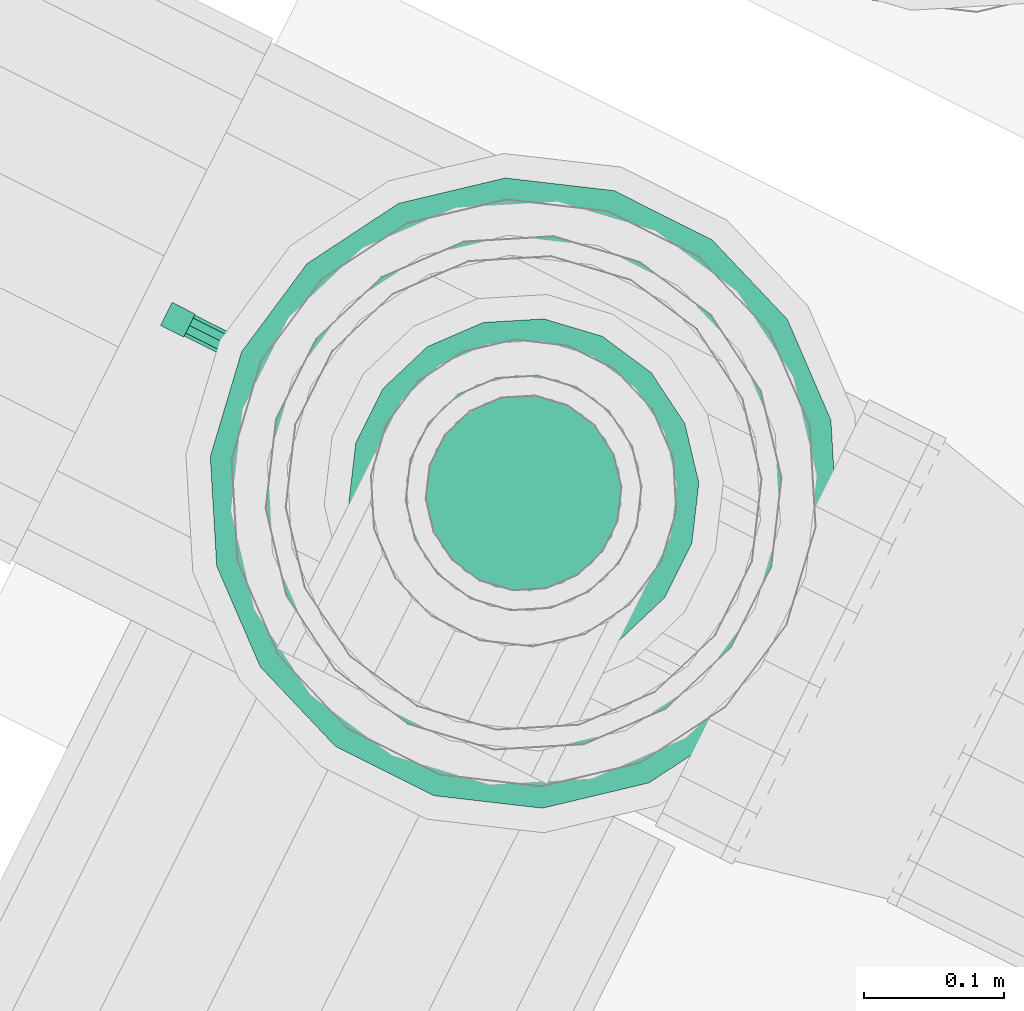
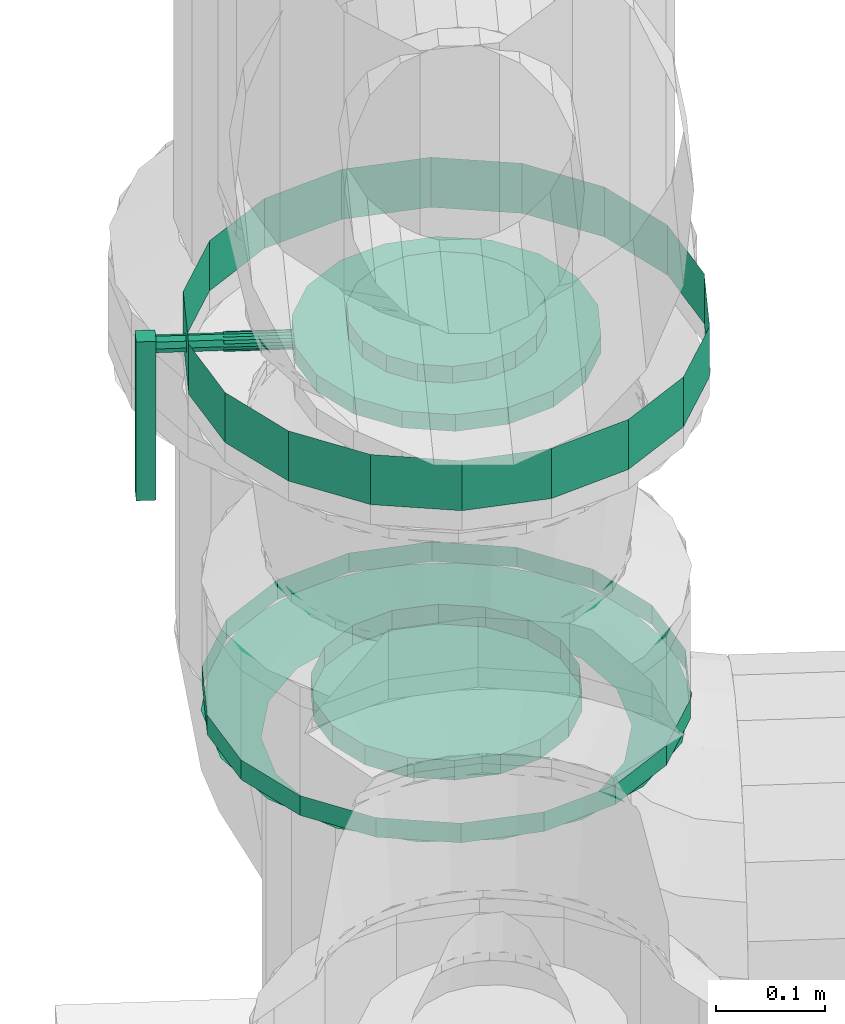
# One storey, part 117 of 152: 1 flow controller, 1 flow fitting.
"""IFC2X3 building model written with IfcOpenShell, lengths in metres."""

from ifc_helpers import new_model, si_unit, derived_unit, direction, frame, origin, place, context, subcontext, project, spatial, face_set, surface_model, source, transform, mapped, material, type_object, type_shapes, element, save


model = new_model("IFC2X3")

# Units and contexts
model_context = context("Model", 3, precision=5.2338327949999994e-05, world=origin(), true_north=direction((0.0, 1.0)))
body_context = subcontext(model_context, "Body", "Model", "MODEL_VIEW")
ifc_project = project(units=[si_unit("LENGTHUNIT", "METRE"), si_unit("AREAUNIT", "SQUARE_METRE"), si_unit("VOLUMEUNIT", "CUBIC_METRE"), si_unit("MASSUNIT", "GRAM", prefix="KILO"), si_unit("PLANEANGLEUNIT", "RADIAN"), derived_unit("THERMALTRANSMITTANCEUNIT", [(si_unit("MASSUNIT", "GRAM", prefix="KILO"), 1), (si_unit("THERMODYNAMICTEMPERATUREUNIT", "KELVIN"), -1), (si_unit("TIMEUNIT", "SECOND"), -3)])], contexts=[model_context])

# Site, building, storey
site_placement = place(None, frame((0.0, 0.0, 0.0), z_axis=(0.0, 0.0, 1.0), x_axis=(0.8939966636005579, -0.4480736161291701, 0.0)))
site = spatial("IfcSite", under=ifc_project, at=site_placement, Name="Default", CompositionType="ELEMENT")
building_placement = place(site_placement, origin())
building = spatial("IfcBuilding", under=site, at=building_placement, CompositionType="ELEMENT")
storey_placement = place(building_placement, frame((0.0, 0.0, 2.7499999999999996)))
storey = spatial("IfcBuildingStorey", under=building, at=storey_placement, Name="1. Obergeschoss", CompositionType="ELEMENT", Elevation=2.7499999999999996)

# Flow fitting
ifc_material = material(Name="IfcSurfaceStyle #9317")
distribution_element_type_1 = type_object("IfcDistributionElementType", Name="Flansch 233463:Flansch 233463", material=ifc_material)
shared_shape_1 = source(origin(), body_context, "Body", "SurfaceModel", [
    surface_model("IfcFaceBasedSurfaceModel", [(9.5559208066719, 7.3272083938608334, 4.120071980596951), (9.560133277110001, 7.303318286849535, 4.12007198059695), (9.552474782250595, 7.3005308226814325, 4.15307198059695), (9.547770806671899, 7.3272083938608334, 4.15307198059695), (9.57226260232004, 7.282309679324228, 4.12007198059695), (9.566019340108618, 7.2770709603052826, 4.15307198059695), (9.590845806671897, 7.26671651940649, 4.12007198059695), (9.5867708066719, 7.2596584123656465, 4.15307198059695), (9.613641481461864, 7.2584195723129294, 4.12007198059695), (9.61222624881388, 7.250393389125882, 4.15307198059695), (9.637900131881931, 7.2584195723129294, 4.12007198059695), (9.63931536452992, 7.250393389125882, 4.15307198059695), (9.660695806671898, 7.26671651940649, 4.120071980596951), (9.664770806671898, 7.2596584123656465, 4.15307198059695), (9.67927901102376, 7.282309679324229, 4.120071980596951), (9.685522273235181, 7.277070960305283, 4.15307198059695), (9.691408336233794, 7.303318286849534, 4.120071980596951), (9.6990668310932, 7.3005308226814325, 4.15307198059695), (9.695620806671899, 7.3272083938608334, 4.120071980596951), (9.703770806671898, 7.327208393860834, 4.15307198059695), (9.691408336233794, 7.351098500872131, 4.120071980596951), (9.6990668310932, 7.353885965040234, 4.15307198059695), (9.67927901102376, 7.372107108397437, 4.120071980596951), (9.685522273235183, 7.3773458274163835, 4.15307198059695), (9.660695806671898, 7.387700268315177, 4.12007198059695), (9.664770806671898, 7.39475837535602, 4.15307198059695), (9.637900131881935, 7.395997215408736, 4.12007198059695), (9.639315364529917, 7.404023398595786, 4.15307198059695), (9.613641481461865, 7.395997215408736, 4.12007198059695), (9.61222624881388, 7.404023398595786, 4.15307198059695), (9.590845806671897, 7.387700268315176, 4.12007198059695), (9.5867708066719, 7.39475837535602, 4.15307198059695), (9.572262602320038, 7.372107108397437, 4.120071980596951), (9.566019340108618, 7.3773458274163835, 4.15307198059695), (9.560133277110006, 7.351098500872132, 4.12007198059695), (9.552474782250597, 7.353885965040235, 4.15307198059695), (9.6257708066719, 7.452208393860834, 4.15307198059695), (9.58301828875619, 7.4446699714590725, 4.15307198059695), (9.583018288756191, 7.444669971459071, 4.175071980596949), (9.6257708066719, 7.452208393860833, 4.175071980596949), (9.545422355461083, 7.422963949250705, 4.15307198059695), (9.545422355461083, 7.422963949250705, 4.175071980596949), (9.517517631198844, 7.3897083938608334, 4.15307198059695), (9.517517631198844, 7.389708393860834, 4.175071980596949), (9.502669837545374, 7.3489144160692, 4.15307198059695), (9.502669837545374, 7.3489144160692, 4.175071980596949), (9.502669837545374, 7.305502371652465, 4.15307198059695), (9.502669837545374, 7.305502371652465, 4.175071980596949), (9.517517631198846, 7.264708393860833, 4.15307198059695), (9.517517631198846, 7.2647083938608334, 4.175071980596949), (9.545422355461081, 7.231452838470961, 4.15307198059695), (9.545422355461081, 7.231452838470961, 4.175071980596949), (9.583018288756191, 7.209746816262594, 4.15307198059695), (9.583018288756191, 7.209746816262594, 4.175071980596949), (9.625770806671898, 7.202208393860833, 4.15307198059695), (9.625770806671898, 7.202208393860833, 4.175071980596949), (9.66852332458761, 7.209746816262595, 4.15307198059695), (9.66852332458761, 7.209746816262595, 4.175071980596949), (9.706119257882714, 7.23145283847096, 4.15307198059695), (9.706119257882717, 7.231452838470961, 4.175071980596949), (9.734023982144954, 7.264708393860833, 4.15307198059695), (9.734023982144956, 7.264708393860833, 4.175071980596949), (9.748871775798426, 7.305502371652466, 4.15307198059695), (9.748871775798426, 7.305502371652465, 4.175071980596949), (9.748871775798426, 7.348914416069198, 4.15307198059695), (9.748871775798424, 7.348914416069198, 4.175071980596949), (9.734023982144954, 7.3897083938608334, 4.15307198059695), (9.734023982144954, 7.3897083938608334, 4.175071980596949), (9.706119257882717, 7.422963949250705, 4.15307198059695), (9.706119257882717, 7.422963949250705, 4.175071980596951), (9.66852332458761, 7.444669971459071, 4.15307198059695), (9.66852332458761, 7.444669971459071, 4.175071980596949), (9.6257708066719, 7.3272083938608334, 4.15307198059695), (9.455920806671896, 7.3272083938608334, 4.120071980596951), (9.466164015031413, 7.2691162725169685, 4.120071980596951), (9.414339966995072, 7.250253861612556, 4.15307198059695), (9.4007708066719, 7.3272083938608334, 4.153071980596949), (9.495658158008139, 7.2180309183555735, 4.120071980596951), (9.45341080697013, 7.182581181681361, 4.15307198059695), (9.5408458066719, 7.180113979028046, 4.12007198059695), (9.513270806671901, 7.132352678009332, 4.15307198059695), (9.596276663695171, 7.15993879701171, 4.12007198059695), (9.586699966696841, 7.105626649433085, 4.15307198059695), (9.655264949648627, 7.159938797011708, 4.12007198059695), (9.664841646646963, 7.105626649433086, 4.15307198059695), (9.7106958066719, 7.180113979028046, 4.120071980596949), (9.738270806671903, 7.132352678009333, 4.153071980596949), (9.755883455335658, 7.218030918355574, 4.120071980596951), (9.79813080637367, 7.1825811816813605, 4.15307198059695), (9.785377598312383, 7.269116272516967, 4.12007198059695), (9.837201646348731, 7.250253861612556, 4.15307198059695), (9.7956208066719, 7.3272083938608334, 4.12007198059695), (9.850770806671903, 7.3272083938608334, 4.153071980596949), (9.785377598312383, 7.385300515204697, 4.12007198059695), (9.837201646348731, 7.404162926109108, 4.15307198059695), (9.755883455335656, 7.436385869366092, 4.12007198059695), (9.79813080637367, 7.471835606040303, 4.153071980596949), (9.710695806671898, 7.474302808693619, 4.12007198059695), (9.7382708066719, 7.522064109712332, 4.15307198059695), (9.655264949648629, 7.494477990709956, 4.12007198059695), (9.66484164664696, 7.548790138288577, 4.15307198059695), (9.596276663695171, 7.494477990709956, 4.12007198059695), (9.586699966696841, 7.548790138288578, 4.15307198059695), (9.5408458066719, 7.474302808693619, 4.120071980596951), (9.513270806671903, 7.522064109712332, 4.15307198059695), (9.495658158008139, 7.436385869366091, 4.12007198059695), (9.45341080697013, 7.471835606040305, 4.15307198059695), (9.466164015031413, 7.3853005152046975, 4.120071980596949), (9.414339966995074, 7.404162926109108, 4.153071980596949), (9.625770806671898, 7.552208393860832, 4.15307198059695), (9.548816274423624, 7.538639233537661, 4.15307198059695), (9.548816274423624, 7.538639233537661, 4.175071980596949), (9.625770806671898, 7.552208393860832, 4.175071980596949), (9.481143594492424, 7.499568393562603, 4.15307198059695), (9.481143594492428, 7.499568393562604, 4.175071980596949), (9.430915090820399, 7.439708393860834, 4.15307198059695), (9.430915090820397, 7.439708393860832, 4.175071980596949), (9.404189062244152, 7.366279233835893, 4.15307198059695), (9.404189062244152, 7.366279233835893, 4.175071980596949), (9.404189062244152, 7.288137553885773, 4.15307198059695), (9.404189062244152, 7.288137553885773, 4.175071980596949), (9.430915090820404, 7.214708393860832, 4.15307198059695), (9.4309150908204, 7.214708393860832, 4.175071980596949), (9.481143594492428, 7.154848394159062, 4.15307198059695), (9.481143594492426, 7.154848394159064, 4.175071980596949), (9.548816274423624, 7.115777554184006, 4.15307198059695), (9.548816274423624, 7.115777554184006, 4.175071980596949), (9.625770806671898, 7.102208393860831, 4.153071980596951), (9.6257708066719, 7.102208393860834, 4.17507198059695), (9.702725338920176, 7.115777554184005, 4.15307198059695), (9.702725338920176, 7.115777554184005, 4.17507198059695), (9.77039801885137, 7.154848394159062, 4.15307198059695), (9.77039801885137, 7.154848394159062, 4.175071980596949), (9.820626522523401, 7.214708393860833, 4.15307198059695), (9.8206265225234, 7.214708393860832, 4.175071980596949), (9.847352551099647, 7.288137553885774, 4.15307198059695), (9.847352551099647, 7.288137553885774, 4.175071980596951), (9.847352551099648, 7.3662792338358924, 4.15307198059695), (9.847352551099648, 7.3662792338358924, 4.175071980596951), (9.820626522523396, 7.439708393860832, 4.153071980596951), (9.820626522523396, 7.439708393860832, 4.17507198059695), (9.77039801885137, 7.499568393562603, 4.15307198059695), (9.77039801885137, 7.499568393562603, 4.17507198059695), (9.702725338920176, 7.538639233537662, 4.15307198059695), (9.702725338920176, 7.538639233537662, 4.175071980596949)], [face_set([[[0, 1, 2, 3]], [[1, 4, 5, 2]], [[4, 6, 7, 5]], [[6, 8, 9, 7]], [[8, 10, 11, 9]], [[10, 12, 13, 11]], [[12, 14, 15, 13]], [[14, 16, 17, 15]], [[16, 18, 19, 17]], [[18, 20, 21, 19]], [[20, 22, 23, 21]], [[22, 24, 25, 23]], [[24, 26, 27, 25]], [[26, 28, 29, 27]], [[28, 30, 31, 29]], [[30, 32, 33, 31]], [[32, 34, 35, 33]], [[34, 0, 3, 35]], [[36, 37, 38, 39]], [[37, 40, 41, 38]], [[40, 42, 43, 41]], [[42, 44, 45, 43]], [[44, 46, 47, 45]], [[46, 48, 49, 47]], [[48, 50, 51, 49]], [[50, 52, 53, 51]], [[52, 54, 55, 53]], [[54, 56, 57, 55]], [[56, 58, 59, 57]], [[58, 60, 61, 59]], [[60, 62, 63, 61]], [[62, 64, 65, 63]], [[64, 66, 67, 65]], [[66, 68, 69, 67]], [[68, 70, 71, 69]], [[70, 36, 39, 71]], [[72, 37, 36]], [[72, 40, 37]], [[72, 42, 40]], [[72, 44, 42]], [[72, 46, 44]], [[72, 48, 46]], [[72, 50, 48]], [[72, 52, 50]], [[72, 54, 52]], [[72, 56, 54]], [[72, 58, 56]], [[72, 60, 58]], [[72, 62, 60]], [[72, 64, 62]], [[72, 66, 64]], [[72, 68, 66]], [[72, 70, 68]], [[72, 36, 70]], [[73, 74, 75, 76]], [[74, 77, 78, 75]], [[77, 79, 80, 78]], [[79, 81, 82, 80]], [[81, 83, 84, 82]], [[83, 85, 86, 84]], [[85, 87, 88, 86]], [[87, 89, 90, 88]], [[89, 91, 92, 90]], [[91, 93, 94, 92]], [[93, 95, 96, 94]], [[95, 97, 98, 96]], [[97, 99, 100, 98]], [[99, 101, 102, 100]], [[101, 103, 104, 102]], [[103, 105, 106, 104]], [[105, 107, 108, 106]], [[107, 73, 76, 108]], [[109, 110, 111, 112]], [[110, 113, 114, 111]], [[113, 115, 116, 114]], [[115, 117, 118, 116]], [[117, 119, 120, 118]], [[119, 121, 122, 120]], [[121, 123, 124, 122]], [[123, 125, 126, 124]], [[125, 127, 128, 126]], [[127, 129, 130, 128]], [[129, 131, 132, 130]], [[131, 133, 134, 132]], [[133, 135, 136, 134]], [[135, 137, 138, 136]], [[137, 139, 140, 138]], [[139, 141, 142, 140]], [[141, 143, 144, 142]], [[143, 109, 112, 144]]])]),
])
type_shapes(distribution_element_type_1, [shared_shape_1])
flow_fitting_placement = place(storey_placement, frame((0.0, 0.0, -2.7499999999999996)))
element("IfcFlowFitting", 1, at=flow_fitting_placement, inside=storey, type_object=distribution_element_type_1, material=ifc_material, Name="Flansch", ObjectType="Flansch", context=body_context, shape_type="MappedRepresentation", body=[
    mapped(shared_shape_1, transform((0.0, 0.0, 0.0), scale=1.0)),
])

# Flow controller
distribution_element_type_2 = type_object("IfcDistributionElementType", Name="Zwischenflanschklappe 234235:Zwischenflanschklappe 234235", material=ifc_material)
shared_shape_2 = source(origin(), body_context, "Body", "SurfaceModel", [
    surface_model("IfcFaceBasedSurfaceModel", [(9.359170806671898, 7.336408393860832, 4.396006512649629), (9.359170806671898, 7.336408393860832, 4.5735065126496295), (9.359170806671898, 7.318008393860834, 4.5735065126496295), (9.359170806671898, 7.318008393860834, 4.396006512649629), (9.340770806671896, 7.318008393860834, 4.5735065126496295), (9.340770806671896, 7.318008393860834, 4.396006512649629), (9.340770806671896, 7.336408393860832, 4.5735065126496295), (9.340770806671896, 7.336408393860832, 4.396006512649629), (9.625770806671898, 7.235208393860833, 4.536306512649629), (9.657236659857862, 7.240756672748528, 4.536306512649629), (9.657236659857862, 7.240756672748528, 4.554973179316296), (9.625770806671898, 7.235208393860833, 4.554973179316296), (9.68490726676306, 7.256732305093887, 4.536306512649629), (9.68490726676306, 7.256732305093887, 4.554973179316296), (9.705445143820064, 7.281208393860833, 4.536306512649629), (9.705445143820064, 7.281208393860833, 4.554973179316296), (9.71637311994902, 7.311232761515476, 4.536306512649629), (9.71637311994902, 7.311232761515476, 4.554973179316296), (9.71637311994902, 7.34318402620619, 4.536306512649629), (9.71637311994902, 7.34318402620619, 4.554973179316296), (9.705445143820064, 7.373208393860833, 4.536306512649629), (9.705445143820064, 7.373208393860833, 4.554973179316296), (9.68490726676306, 7.3976844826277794, 4.536306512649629), (9.68490726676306, 7.3976844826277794, 4.554973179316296), (9.657236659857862, 7.413660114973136, 4.536306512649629), (9.657236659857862, 7.413660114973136, 4.554973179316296), (9.625770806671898, 7.419208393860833, 4.536306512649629), (9.625770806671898, 7.419208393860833, 4.554973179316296), (9.594304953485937, 7.413660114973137, 4.536306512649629), (9.594304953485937, 7.413660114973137, 4.554973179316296), (9.566634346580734, 7.3976844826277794, 4.536306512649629), (9.566634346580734, 7.3976844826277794, 4.554973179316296), (9.54609646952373, 7.373208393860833, 4.536306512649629), (9.54609646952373, 7.373208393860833, 4.554973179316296), (9.535168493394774, 7.34318402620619, 4.536306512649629), (9.535168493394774, 7.34318402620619, 4.554973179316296), (9.535168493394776, 7.311232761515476, 4.536306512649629), (9.535168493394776, 7.311232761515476, 4.554973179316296), (9.54609646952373, 7.281208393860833, 4.536306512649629), (9.54609646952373, 7.281208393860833, 4.554973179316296), (9.566634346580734, 7.256732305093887, 4.536306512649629), (9.566634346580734, 7.256732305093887, 4.554973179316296), (9.594304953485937, 7.240756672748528, 4.536306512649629), (9.594304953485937, 7.240756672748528, 4.554973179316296), (9.625770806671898, 7.3272083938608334, 4.536306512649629), (9.625770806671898, 7.3272083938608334, 4.554973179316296), (9.625770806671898, 7.1847083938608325, 4.554973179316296), (9.674508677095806, 7.193302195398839, 4.554973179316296), (9.674508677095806, 7.193302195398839, 4.573639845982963), (9.625770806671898, 7.1847083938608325, 4.573639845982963), (9.717368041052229, 7.218047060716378, 4.554973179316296), (9.717368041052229, 7.218047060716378, 4.573639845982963), (9.749179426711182, 7.255958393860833, 4.554973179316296), (9.749179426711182, 7.255958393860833, 4.573639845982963), (9.766105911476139, 7.302463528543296, 4.554973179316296), (9.766105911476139, 7.302463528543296, 4.573639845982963), (9.766105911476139, 7.351953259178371, 4.554973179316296), (9.766105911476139, 7.351953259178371, 4.573639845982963), (9.74917942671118, 7.3984583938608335, 4.554973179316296), (9.74917942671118, 7.3984583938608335, 4.573639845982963), (9.71736804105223, 7.436369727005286, 4.554973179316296), (9.71736804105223, 7.436369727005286, 4.573639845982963), (9.674508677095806, 7.461114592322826, 4.554973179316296), (9.674508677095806, 7.461114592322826, 4.573639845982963), (9.625770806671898, 7.4697083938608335, 4.554973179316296), (9.625770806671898, 7.4697083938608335, 4.573639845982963), (9.577032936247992, 7.461114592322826, 4.554973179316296), (9.577032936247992, 7.461114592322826, 4.573639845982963), (9.534173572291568, 7.436369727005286, 4.554973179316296), (9.534173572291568, 7.436369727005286, 4.573639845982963), (9.502362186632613, 7.3984583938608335, 4.554973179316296), (9.502362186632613, 7.3984583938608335, 4.573639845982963), (9.485435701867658, 7.351953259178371, 4.554973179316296), (9.485435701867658, 7.351953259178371, 4.573639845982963), (9.485435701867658, 7.302463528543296, 4.554973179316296), (9.485435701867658, 7.302463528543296, 4.573639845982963), (9.502362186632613, 7.255958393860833, 4.554973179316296), (9.502362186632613, 7.255958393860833, 4.573639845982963), (9.534173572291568, 7.218047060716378, 4.554973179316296), (9.534173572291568, 7.218047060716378, 4.573639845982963), (9.577032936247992, 7.19330219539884, 4.554973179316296), (9.577032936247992, 7.19330219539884, 4.573639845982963), (9.625770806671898, 7.3272083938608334, 4.573639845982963), (9.625770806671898, 7.235208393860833, 4.573639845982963), (9.657236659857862, 7.240756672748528, 4.573639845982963), (9.657236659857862, 7.240756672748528, 4.59230651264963), (9.625770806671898, 7.235208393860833, 4.59230651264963), (9.68490726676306, 7.256732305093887, 4.573639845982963), (9.68490726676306, 7.256732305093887, 4.59230651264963), (9.705445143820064, 7.281208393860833, 4.573639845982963), (9.705445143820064, 7.281208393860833, 4.59230651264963), (9.71637311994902, 7.311232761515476, 4.573639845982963), (9.71637311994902, 7.311232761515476, 4.59230651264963), (9.71637311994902, 7.34318402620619, 4.573639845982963), (9.71637311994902, 7.34318402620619, 4.59230651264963), (9.705445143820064, 7.373208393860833, 4.573639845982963), (9.705445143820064, 7.373208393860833, 4.59230651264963), (9.68490726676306, 7.3976844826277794, 4.573639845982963), (9.68490726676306, 7.3976844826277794, 4.59230651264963), (9.657236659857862, 7.413660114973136, 4.573639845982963), (9.657236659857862, 7.413660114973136, 4.59230651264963), (9.625770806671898, 7.419208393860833, 4.573639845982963), (9.625770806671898, 7.419208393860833, 4.59230651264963), (9.594304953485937, 7.413660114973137, 4.573639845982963), (9.594304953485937, 7.413660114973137, 4.59230651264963), (9.566634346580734, 7.3976844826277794, 4.573639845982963), (9.566634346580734, 7.3976844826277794, 4.59230651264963), (9.54609646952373, 7.373208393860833, 4.573639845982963), (9.54609646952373, 7.373208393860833, 4.59230651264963), (9.535168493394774, 7.34318402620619, 4.573639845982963), (9.535168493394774, 7.34318402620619, 4.59230651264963), (9.535168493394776, 7.311232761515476, 4.573639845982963), (9.535168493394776, 7.311232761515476, 4.59230651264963), (9.54609646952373, 7.281208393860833, 4.573639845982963), (9.54609646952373, 7.281208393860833, 4.59230651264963), (9.566634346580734, 7.256732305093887, 4.573639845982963), (9.566634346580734, 7.256732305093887, 4.59230651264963), (9.594304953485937, 7.240756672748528, 4.573639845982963), (9.594304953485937, 7.240756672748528, 4.59230651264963), (9.625770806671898, 7.3272083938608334, 4.592306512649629), (9.625770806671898, 7.3178750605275, 4.56430651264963), (9.625770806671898, 7.318437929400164, 4.567498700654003), (9.421220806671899, 7.318437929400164, 4.567498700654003), (9.421220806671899, 7.3178750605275, 4.56430651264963), (9.625770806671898, 7.320058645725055, 4.57030586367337), (9.421220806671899, 7.320058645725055, 4.57030586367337), (9.625770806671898, 7.3225417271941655, 4.572389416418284), (9.421220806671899, 7.3225417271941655, 4.572389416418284), (9.625770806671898, 7.3255876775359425, 4.573498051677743), (9.421220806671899, 7.3255876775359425, 4.573498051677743), (9.625770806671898, 7.328829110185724, 4.573498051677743), (9.421220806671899, 7.328829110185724, 4.573498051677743), (9.625770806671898, 7.3318750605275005, 4.572389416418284), (9.421220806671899, 7.3318750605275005, 4.572389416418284), (9.625770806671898, 7.33435814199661, 4.57030586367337), (9.421220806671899, 7.33435814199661, 4.57030586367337), (9.625770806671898, 7.335978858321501, 4.567498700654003), (9.421220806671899, 7.335978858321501, 4.567498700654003), (9.625770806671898, 7.336541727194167, 4.56430651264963), (9.421220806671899, 7.336541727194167, 4.56430651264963), (9.625770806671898, 7.335978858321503, 4.561114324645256), (9.421220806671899, 7.335978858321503, 4.561114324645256), (9.625770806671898, 7.33435814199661, 4.558307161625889), (9.421220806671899, 7.33435814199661, 4.558307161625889), (9.625770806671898, 7.3318750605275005, 4.556223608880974), (9.421220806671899, 7.3318750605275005, 4.556223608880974), (9.625770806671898, 7.328829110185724, 4.555114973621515), (9.421220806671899, 7.328829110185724, 4.555114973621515), (9.625770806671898, 7.3255876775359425, 4.555114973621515), (9.421220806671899, 7.3255876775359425, 4.555114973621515), (9.625770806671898, 7.3225417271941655, 4.556223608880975), (9.421220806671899, 7.3225417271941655, 4.556223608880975), (9.625770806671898, 7.320058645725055, 4.558307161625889), (9.421220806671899, 7.320058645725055, 4.558307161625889), (9.625770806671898, 7.318437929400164, 4.561114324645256), (9.421220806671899, 7.318437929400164, 4.561114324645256), (9.625770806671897, 7.3272083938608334, 4.56430651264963), (9.421220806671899, 7.3272083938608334, 4.56430651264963), (9.421220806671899, 7.318793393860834, 4.56430651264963), (9.421220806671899, 7.32125809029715, 4.570256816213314), (9.359170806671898, 7.32125809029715, 4.570256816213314), (9.359170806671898, 7.318793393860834, 4.56430651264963), (9.421220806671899, 7.3272083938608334, 4.57272151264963), (9.359170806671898, 7.3272083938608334, 4.57272151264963), (9.421220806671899, 7.333158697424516, 4.570256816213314), (9.359170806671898, 7.333158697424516, 4.570256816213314), (9.421220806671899, 7.335623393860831, 4.56430651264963), (9.359170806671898, 7.335623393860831, 4.56430651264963), (9.421220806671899, 7.3331586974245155, 4.558356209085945), (9.359170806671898, 7.3331586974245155, 4.558356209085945), (9.421220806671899, 7.3272083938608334, 4.555891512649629), (9.359170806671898, 7.3272083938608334, 4.555891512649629), (9.421220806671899, 7.321258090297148, 4.558356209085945), (9.359170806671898, 7.321258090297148, 4.558356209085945), (9.359170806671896, 7.3272083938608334, 4.56430651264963), (9.625770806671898, 7.084708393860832, 4.536306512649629), (9.708710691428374, 7.09933293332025, 4.536306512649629), (9.708710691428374, 7.09933293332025, 4.59230651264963), (9.625770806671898, 7.084708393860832, 4.59230651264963), (9.781646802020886, 7.14144261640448, 4.536306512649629), (9.781646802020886, 7.14144261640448, 4.59230651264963), (9.835781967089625, 7.205958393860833, 4.536306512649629), (9.835781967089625, 7.205958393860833, 4.59230651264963), (9.864586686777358, 7.2850987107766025, 4.536306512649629), (9.864586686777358, 7.2850987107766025, 4.59230651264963), (9.864586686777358, 7.3693180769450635, 4.536306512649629), (9.864586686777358, 7.3693180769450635, 4.59230651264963), (9.835781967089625, 7.448458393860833, 4.536306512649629), (9.835781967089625, 7.448458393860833, 4.59230651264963), (9.781646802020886, 7.512974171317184, 4.536306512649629), (9.781646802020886, 7.512974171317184, 4.59230651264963), (9.708710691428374, 7.555083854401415, 4.536306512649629), (9.708710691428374, 7.555083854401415, 4.59230651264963), (9.625770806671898, 7.569708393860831, 4.536306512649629), (9.625770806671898, 7.569708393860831, 4.59230651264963), (9.542830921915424, 7.555083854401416, 4.536306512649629), (9.542830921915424, 7.555083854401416, 4.59230651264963), (9.469894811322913, 7.512974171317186, 4.536306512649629), (9.469894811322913, 7.512974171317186, 4.59230651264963), (9.415759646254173, 7.448458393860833, 4.536306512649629), (9.415759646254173, 7.448458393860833, 4.59230651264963), (9.386954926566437, 7.3693180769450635, 4.536306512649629), (9.386954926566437, 7.3693180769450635, 4.59230651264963), (9.386954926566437, 7.2850987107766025, 4.536306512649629), (9.386954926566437, 7.2850987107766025, 4.59230651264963), (9.415759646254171, 7.205958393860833, 4.536306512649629), (9.415759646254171, 7.205958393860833, 4.59230651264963), (9.469894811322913, 7.14144261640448, 4.536306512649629), (9.469894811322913, 7.14144261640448, 4.59230651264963), (9.542830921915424, 7.09933293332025, 4.536306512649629), (9.542830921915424, 7.09933293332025, 4.59230651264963)], [face_set([[[0, 1, 2, 3]], [[3, 2, 4, 5]], [[5, 4, 6, 7]], [[7, 6, 1, 0]], [[0, 3, 5, 7]], [[6, 4, 2, 1]], [[8, 9, 10, 11]], [[9, 12, 13, 10]], [[12, 14, 15, 13]], [[14, 16, 17, 15]], [[16, 18, 19, 17]], [[18, 20, 21, 19]], [[20, 22, 23, 21]], [[22, 24, 25, 23]], [[24, 26, 27, 25]], [[26, 28, 29, 27]], [[28, 30, 31, 29]], [[30, 32, 33, 31]], [[32, 34, 35, 33]], [[34, 36, 37, 35]], [[36, 38, 39, 37]], [[38, 40, 41, 39]], [[40, 42, 43, 41]], [[42, 8, 11, 43]], [[44, 9, 8]], [[44, 12, 9]], [[44, 14, 12]], [[44, 16, 14]], [[44, 18, 16]], [[44, 20, 18]], [[44, 22, 20]], [[44, 24, 22]], [[44, 26, 24]], [[44, 28, 26]], [[44, 30, 28]], [[44, 32, 30]], [[44, 34, 32]], [[44, 36, 34]], [[44, 38, 36]], [[44, 40, 38]], [[44, 42, 40]], [[44, 8, 42]], [[45, 43, 11]], [[45, 41, 43]], [[45, 39, 41]], [[45, 37, 39]], [[45, 35, 37]], [[45, 33, 35]], [[45, 31, 33]], [[45, 29, 31]], [[45, 27, 29]], [[45, 25, 27]], [[45, 23, 25]], [[45, 21, 23]], [[45, 19, 21]], [[45, 17, 19]], [[45, 15, 17]], [[45, 13, 15]], [[45, 10, 13]], [[45, 11, 10]], [[46, 47, 48, 49]], [[47, 50, 51, 48]], [[50, 52, 53, 51]], [[52, 54, 55, 53]], [[54, 56, 57, 55]], [[56, 58, 59, 57]], [[58, 60, 61, 59]], [[60, 62, 63, 61]], [[62, 64, 65, 63]], [[64, 66, 67, 65]], [[66, 68, 69, 67]], [[68, 70, 71, 69]], [[70, 72, 73, 71]], [[72, 74, 75, 73]], [[74, 76, 77, 75]], [[76, 78, 79, 77]], [[78, 80, 81, 79]], [[80, 46, 49, 81]], [[45, 47, 46]], [[45, 50, 47]], [[45, 52, 50]], [[45, 54, 52]], [[45, 56, 54]], [[45, 58, 56]], [[45, 60, 58]], [[45, 62, 60]], [[45, 64, 62]], [[45, 66, 64]], [[45, 68, 66]], [[45, 70, 68]], [[45, 72, 70]], [[45, 74, 72]], [[45, 76, 74]], [[45, 78, 76]], [[45, 80, 78]], [[45, 46, 80]], [[82, 81, 49]], [[82, 79, 81]], [[82, 77, 79]], [[82, 75, 77]], [[82, 73, 75]], [[82, 71, 73]], [[82, 69, 71]], [[82, 67, 69]], [[82, 65, 67]], [[82, 63, 65]], [[82, 61, 63]], [[82, 59, 61]], [[82, 57, 59]], [[82, 55, 57]], [[82, 53, 55]], [[82, 51, 53]], [[82, 48, 51]], [[82, 49, 48]], [[83, 84, 85, 86]], [[84, 87, 88, 85]], [[87, 89, 90, 88]], [[89, 91, 92, 90]], [[91, 93, 94, 92]], [[93, 95, 96, 94]], [[95, 97, 98, 96]], [[97, 99, 100, 98]], [[99, 101, 102, 100]], [[101, 103, 104, 102]], [[103, 105, 106, 104]], [[105, 107, 108, 106]], [[107, 109, 110, 108]], [[109, 111, 112, 110]], [[111, 113, 114, 112]], [[113, 115, 116, 114]], [[115, 117, 118, 116]], [[117, 83, 86, 118]], [[82, 84, 83]], [[82, 87, 84]], [[82, 89, 87]], [[82, 91, 89]], [[82, 93, 91]], [[82, 95, 93]], [[82, 97, 95]], [[82, 99, 97]], [[82, 101, 99]], [[82, 103, 101]], [[82, 105, 103]], [[82, 107, 105]], [[82, 109, 107]], [[82, 111, 109]], [[82, 113, 111]], [[82, 115, 113]], [[82, 117, 115]], [[82, 83, 117]], [[119, 118, 86]], [[119, 116, 118]], [[119, 114, 116]], [[119, 112, 114]], [[119, 110, 112]], [[119, 108, 110]], [[119, 106, 108]], [[119, 104, 106]], [[119, 102, 104]], [[119, 100, 102]], [[119, 98, 100]], [[119, 96, 98]], [[119, 94, 96]], [[119, 92, 94]], [[119, 90, 92]], [[119, 88, 90]], [[119, 85, 88]], [[119, 86, 85]], [[120, 121, 122, 123]], [[121, 124, 125, 122]], [[124, 126, 127, 125]], [[126, 128, 129, 127]], [[128, 130, 131, 129]], [[130, 132, 133, 131]], [[132, 134, 135, 133]], [[134, 136, 137, 135]], [[136, 138, 139, 137]], [[138, 140, 141, 139]], [[140, 142, 143, 141]], [[142, 144, 145, 143]], [[144, 146, 147, 145]], [[146, 148, 149, 147]], [[148, 150, 151, 149]], [[150, 152, 153, 151]], [[152, 154, 155, 153]], [[154, 120, 123, 155]], [[156, 121, 120]], [[156, 124, 121]], [[156, 126, 124]], [[156, 128, 126]], [[156, 130, 128]], [[156, 132, 130]], [[156, 134, 132]], [[156, 136, 134]], [[156, 138, 136]], [[156, 140, 138]], [[156, 142, 140]], [[156, 144, 142]], [[156, 146, 144]], [[156, 148, 146]], [[156, 150, 148]], [[156, 152, 150]], [[156, 154, 152]], [[156, 120, 154]], [[157, 155, 123]], [[157, 153, 155]], [[157, 151, 153]], [[157, 149, 151]], [[157, 147, 149]], [[157, 145, 147]], [[157, 143, 145]], [[157, 141, 143]], [[157, 139, 141]], [[157, 137, 139]], [[157, 135, 137]], [[157, 133, 135]], [[157, 131, 133]], [[157, 129, 131]], [[157, 127, 129]], [[157, 125, 127]], [[157, 122, 125]], [[157, 123, 122]], [[158, 159, 160, 161]], [[159, 162, 163, 160]], [[162, 164, 165, 163]], [[164, 166, 167, 165]], [[166, 168, 169, 167]], [[168, 170, 171, 169]], [[170, 172, 173, 171]], [[172, 158, 161, 173]], [[174, 173, 161]], [[174, 171, 173]], [[174, 169, 171]], [[174, 167, 169]], [[174, 165, 167]], [[174, 163, 165]], [[174, 160, 163]], [[174, 161, 160]], [[175, 176, 177, 178]], [[176, 179, 180, 177]], [[179, 181, 182, 180]], [[181, 183, 184, 182]], [[183, 185, 186, 184]], [[185, 187, 188, 186]], [[187, 189, 190, 188]], [[189, 191, 192, 190]], [[191, 193, 194, 192]], [[193, 195, 196, 194]], [[195, 197, 198, 196]], [[197, 199, 200, 198]], [[199, 201, 202, 200]], [[201, 203, 204, 202]], [[203, 205, 206, 204]], [[205, 207, 208, 206]], [[207, 209, 210, 208]], [[209, 175, 178, 210]]])]),
])
type_shapes(distribution_element_type_2, [shared_shape_2])
flow_controller_placement = place(storey_placement, frame((0.0, 0.0, -2.7499999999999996)))
element("IfcFlowController", 2, at=flow_controller_placement, inside=storey, type_object=distribution_element_type_2, material=ifc_material, Name="Zwischenflanschklappe", ObjectType="Zwischenflanschklappe", context=body_context, shape_type="MappedRepresentation", body=[
    mapped(shared_shape_2, transform((0.0, 0.0, 0.0), scale=1.0)),
])

save(model, "model.ifc")
